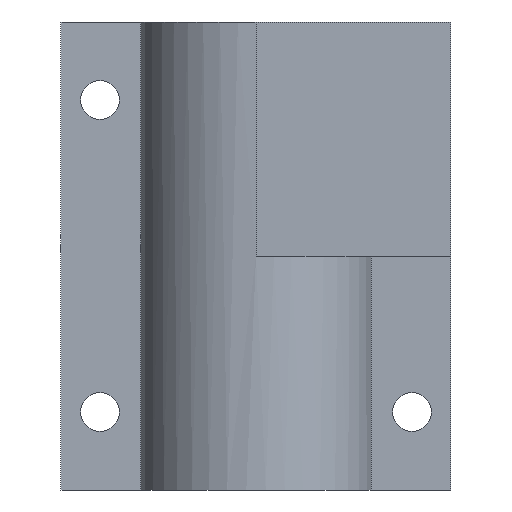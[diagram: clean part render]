
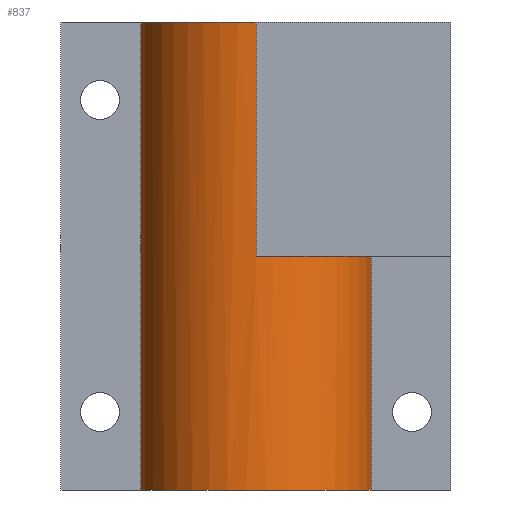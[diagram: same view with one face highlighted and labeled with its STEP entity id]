
A CAD part, front view. The second image highlights one B-rep face of the part: STEP entity #837.
In plain terms, the highlighted cylindrical face has radius 30 mm (diameter 60 mm), a partial arc.
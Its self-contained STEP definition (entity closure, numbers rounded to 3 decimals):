
#115=FACE_OUTER_BOUND('',#170,.T.);
#170=EDGE_LOOP('',(#750,#751,#752,#753,#754,#755,#756,#757));
#225=LINE('',#1460,#295);
#228=LINE('',#1466,#298);
#247=LINE('',#1533,#317);
#248=LINE('',#1535,#318);
#295=VECTOR('',#1130,10.);
#298=VECTOR('',#1135,10.);
#317=VECTOR('',#1200,10.);
#318=VECTOR('',#1203,10.);
#346=CIRCLE('',#946,30.);
#347=CIRCLE('',#951,30.);
#348=CIRCLE('',#952,30.);
#361=CIRCLE('',#970,30.);
#411=VERTEX_POINT('',#1450);
#412=VERTEX_POINT('',#1451);
#415=VERTEX_POINT('',#1459);
#417=VERTEX_POINT('',#1465);
#419=VERTEX_POINT('',#1473);
#424=VERTEX_POINT('',#1483);
#439=VERTEX_POINT('',#1522);
#440=VERTEX_POINT('',#1524);
#512=EDGE_CURVE('',#411,#412,#346,.T.);
#516=EDGE_CURVE('',#412,#415,#225,.T.);
#519=EDGE_CURVE('',#417,#411,#228,.T.);
#523=EDGE_CURVE('',#417,#419,#347,.T.);
#529=EDGE_CURVE('',#424,#415,#348,.T.);
#548=EDGE_CURVE('',#439,#440,#361,.T.);
#553=EDGE_CURVE('',#439,#419,#247,.T.);
#554=EDGE_CURVE('',#440,#424,#248,.T.);
#750=ORIENTED_EDGE('',*,*,#516,.T.);
#751=ORIENTED_EDGE('',*,*,#529,.F.);
#752=ORIENTED_EDGE('',*,*,#554,.F.);
#753=ORIENTED_EDGE('',*,*,#548,.F.);
#754=ORIENTED_EDGE('',*,*,#553,.T.);
#755=ORIENTED_EDGE('',*,*,#523,.F.);
#756=ORIENTED_EDGE('',*,*,#519,.T.);
#757=ORIENTED_EDGE('',*,*,#512,.T.);
#801=CYLINDRICAL_SURFACE('',#972,30.);
#837=ADVANCED_FACE('',(#115),#801,.T.);
#946=AXIS2_PLACEMENT_3D('',#1452,#1123,#1124);
#951=AXIS2_PLACEMENT_3D('',#1474,#1143,#1144);
#952=AXIS2_PLACEMENT_3D('',#1485,#1150,#1151);
#970=AXIS2_PLACEMENT_3D('',#1525,#1192,#1193);
#972=AXIS2_PLACEMENT_3D('',#1534,#1201,#1202);
#1123=DIRECTION('center_axis',(0.,0.,-1.));
#1124=DIRECTION('ref_axis',(1.,0.,0.));
#1130=DIRECTION('',(0.,0.,1.));
#1135=DIRECTION('',(0.,0.,-1.));
#1143=DIRECTION('center_axis',(0.,0.,1.));
#1144=DIRECTION('ref_axis',(1.,0.,0.));
#1150=DIRECTION('center_axis',(0.,0.,1.));
#1151=DIRECTION('ref_axis',(1.,0.,0.));
#1192=DIRECTION('center_axis',(0.,0.,-1.));
#1193=DIRECTION('ref_axis',(1.,0.,0.));
#1200=DIRECTION('',(0.,0.,1.));
#1201=DIRECTION('center_axis',(0.,0.,1.));
#1202=DIRECTION('ref_axis',(1.,0.,0.));
#1203=DIRECTION('',(0.,0.,1.));
#1450=CARTESIAN_POINT('',(-28.284,10.,0.));
#1451=CARTESIAN_POINT('',(0.,30.,0.));
#1452=CARTESIAN_POINT('Origin',(0.,0.,0.));
#1459=CARTESIAN_POINT('',(0.,30.,60.));
#1460=CARTESIAN_POINT('',(0.,30.,0.));
#1465=CARTESIAN_POINT('',(-28.284,10.,60.));
#1466=CARTESIAN_POINT('',(-28.284,10.,0.));
#1473=CARTESIAN_POINT('',(-29.58,5.,60.));
#1474=CARTESIAN_POINT('Origin',(0.,0.,60.));
#1483=CARTESIAN_POINT('',(29.58,5.,60.));
#1485=CARTESIAN_POINT('Origin',(0.,0.,60.));
#1522=CARTESIAN_POINT('',(-29.58,5.,-60.));
#1524=CARTESIAN_POINT('',(29.58,5.,-60.));
#1525=CARTESIAN_POINT('Origin',(0.,0.,-60.));
#1533=CARTESIAN_POINT('',(-29.58,5.,0.));
#1534=CARTESIAN_POINT('Origin',(0.,0.,0.));
#1535=CARTESIAN_POINT('',(29.58,5.,0.));
